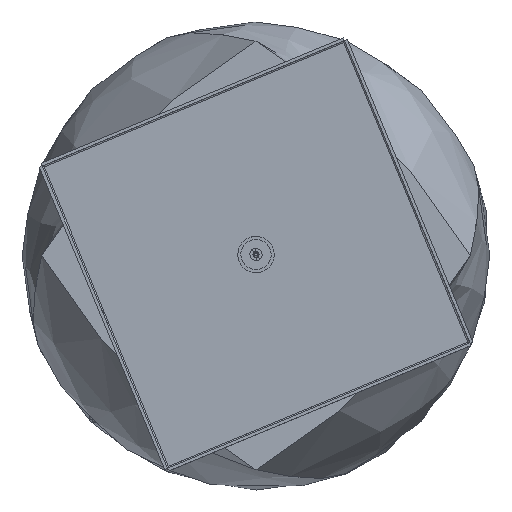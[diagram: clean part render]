
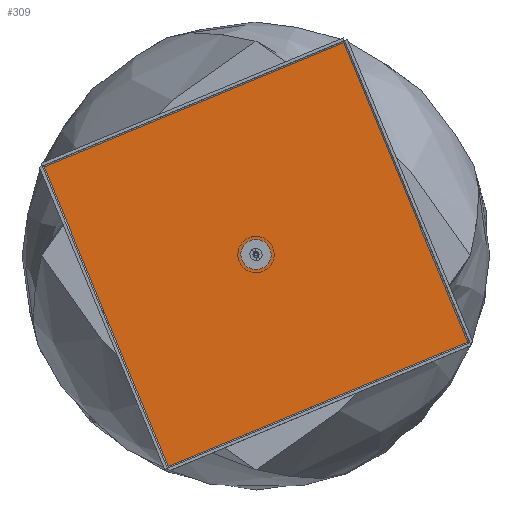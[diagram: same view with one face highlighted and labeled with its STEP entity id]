
A CAD part, top view. The second image highlights one B-rep face of the part: STEP entity #309.
In plain terms, the highlighted planar face has unit normal (0, 0, 1) as drawn and (0, 0, -1) by its records, which use the part's own axes.
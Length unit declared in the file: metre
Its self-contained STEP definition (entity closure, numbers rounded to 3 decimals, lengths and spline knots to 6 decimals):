
#309 = ADVANCED_FACE( '', ( #517, #518 ), #519, .F. );
#517 = FACE_BOUND( '', #1450, .T. );
#518 = FACE_OUTER_BOUND( '', #1451, .T. );
#519 = PLANE( '', #1452 );
#1450 = EDGE_LOOP( '', ( #2567 ) );
#1451 = EDGE_LOOP( '', ( #2568, #2569, #2570, #2571 ) );
#1452 = AXIS2_PLACEMENT_3D( '', #2572, #2573, #2574 );
#2567 = ORIENTED_EDGE( '', *, *, #3646, .T. );
#2568 = ORIENTED_EDGE( '', *, *, #3647, .T. );
#2569 = ORIENTED_EDGE( '', *, *, #3648, .F. );
#2570 = ORIENTED_EDGE( '', *, *, #3649, .F. );
#2571 = ORIENTED_EDGE( '', *, *, #3650, .F. );
#2572 = CARTESIAN_POINT( '', ( -0.055, -0.055, -0.001 ) );
#2573 = DIRECTION( '', ( 0., 0., 1. ) );
#2574 = DIRECTION( '', ( 1., 0., 0. ) );
#3646 = EDGE_CURVE( '', #4104, #4104, #4105, .T. );
#3647 = EDGE_CURVE( '', #4106, #4107, #4108, .T. );
#3648 = EDGE_CURVE( '', #4109, #4107, #4110, .T. );
#3649 = EDGE_CURVE( '', #4111, #4109, #4112, .T. );
#3650 = EDGE_CURVE( '', #4106, #4111, #4113, .T. );
#4104 = VERTEX_POINT( '', #5206 );
#4105 = CIRCLE( '', #5207, 0.005 );
#4106 = VERTEX_POINT( '', #5208 );
#4107 = VERTEX_POINT( '', #5209 );
#4108 = LINE( '', #5210, #5211 );
#4109 = VERTEX_POINT( '', #5212 );
#4110 = LINE( '', #5213, #5214 );
#4111 = VERTEX_POINT( '', #5215 );
#4112 = LINE( '', #5216, #5217 );
#4113 = LINE( '', #5218, #5219 );
#5206 = CARTESIAN_POINT( '', ( 0.005, 0., -0.001 ) );
#5207 = AXIS2_PLACEMENT_3D( '', #5932, #5933, #5934 );
#5208 = CARTESIAN_POINT( '', ( 0.0535, 0.0535, -0.001 ) );
#5209 = CARTESIAN_POINT( '', ( 0.0535, -0.0535, -0.001 ) );
#5210 = CARTESIAN_POINT( '', ( 0.0535, -0.0535, -0.001 ) );
#5211 = VECTOR( '', #5935, 1. );
#5212 = CARTESIAN_POINT( '', ( -0.0535, -0.0535, -0.001 ) );
#5213 = CARTESIAN_POINT( '', ( -0.0535, -0.0535, -0.001 ) );
#5214 = VECTOR( '', #5936, 1. );
#5215 = CARTESIAN_POINT( '', ( -0.0535, 0.0535, -0.001 ) );
#5216 = CARTESIAN_POINT( '', ( -0.0535, 0.0535, -0.001 ) );
#5217 = VECTOR( '', #5937, 1. );
#5218 = CARTESIAN_POINT( '', ( 0.0535, 0.0535, -0.001 ) );
#5219 = VECTOR( '', #5938, 1. );
#5932 = CARTESIAN_POINT( '', ( 0., 0., -0.001 ) );
#5933 = DIRECTION( '', ( 0., 0., 1. ) );
#5934 = DIRECTION( '', ( 1., 0., 0. ) );
#5935 = DIRECTION( '', ( 0., -1., 0. ) );
#5936 = DIRECTION( '', ( 1., 0., 0. ) );
#5937 = DIRECTION( '', ( 0., -1., 0. ) );
#5938 = DIRECTION( '', ( -1., 0., 0. ) );
